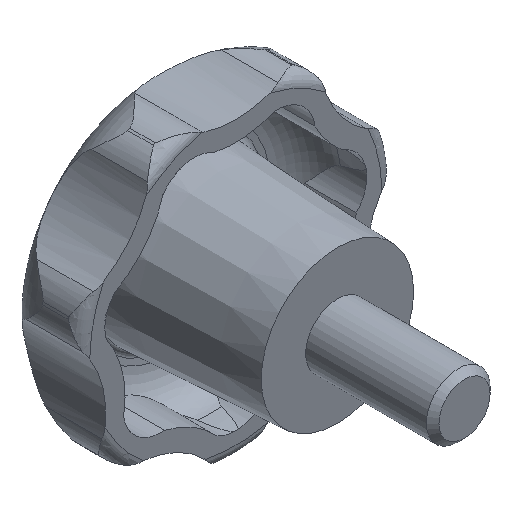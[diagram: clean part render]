
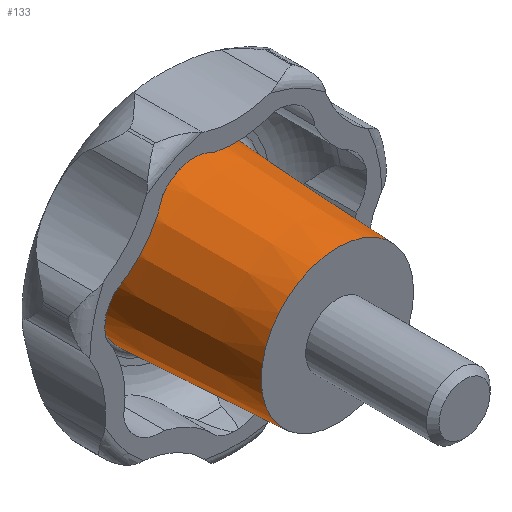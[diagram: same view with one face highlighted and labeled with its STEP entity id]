
A CAD part, isometric view. The second image highlights one B-rep face of the part: STEP entity #133.
In plain terms, the highlighted conical face has half-angle 3 degrees and reference radius 6.654 mm.
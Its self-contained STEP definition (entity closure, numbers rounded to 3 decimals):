
#133 = ADVANCED_FACE( '', ( #273, #274 ), #275, .T. );
#273 = FACE_BOUND( '', #431, .T. );
#274 = FACE_OUTER_BOUND( '', #432, .T. );
#275 = CONICAL_SURFACE( '', #433, 6.654, 0.052 );
#431 = EDGE_LOOP( '', ( #970 ) );
#432 = EDGE_LOOP( '', ( #971 ) );
#433 = AXIS2_PLACEMENT_3D( '', #972, #973, #974 );
#970 = ORIENTED_EDGE( '', *, *, #1160, .F. );
#971 = ORIENTED_EDGE( '', *, *, #1270, .T. );
#972 = CARTESIAN_POINT( '', ( 0., 12.483, 0. ) );
#973 = DIRECTION( '', ( 0., 1., 0. ) );
#974 = DIRECTION( '', ( 0., 0., 1. ) );
#1160 = EDGE_CURVE( '', #1428, #1428, #1429, .T. );
#1270 = EDGE_CURVE( '', #1598, #1598, #1599, .T. );
#1428 = VERTEX_POINT( '', #2214 );
#1429 = CIRCLE( '', #2215, 6. );
#1598 = VERTEX_POINT( '', #2815 );
#1599 = CIRCLE( '', #2816, 6.654 );
#2214 = CARTESIAN_POINT( '', ( 0., 0., -6. ) );
#2215 = AXIS2_PLACEMENT_3D( '', #2973, #2974, #2975 );
#2815 = CARTESIAN_POINT( '', ( 0., 12.483, -6.654 ) );
#2816 = AXIS2_PLACEMENT_3D( '', #3140, #3141, #3142 );
#2973 = CARTESIAN_POINT( '', ( 0., 0., 0. ) );
#2974 = DIRECTION( '', ( 0., -1., 0. ) );
#2975 = DIRECTION( '', ( 0., 0., -1. ) );
#3140 = CARTESIAN_POINT( '', ( 0., 12.483, 0. ) );
#3141 = DIRECTION( '', ( 0., -1., 0. ) );
#3142 = DIRECTION( '', ( 0., 0., -1. ) );
